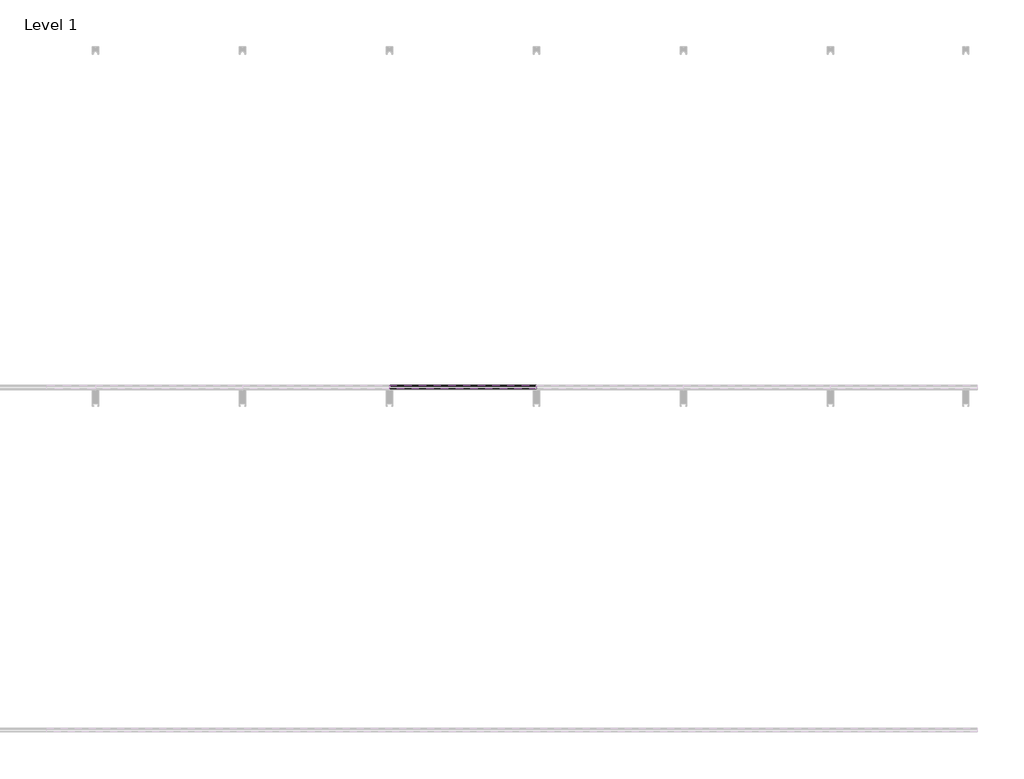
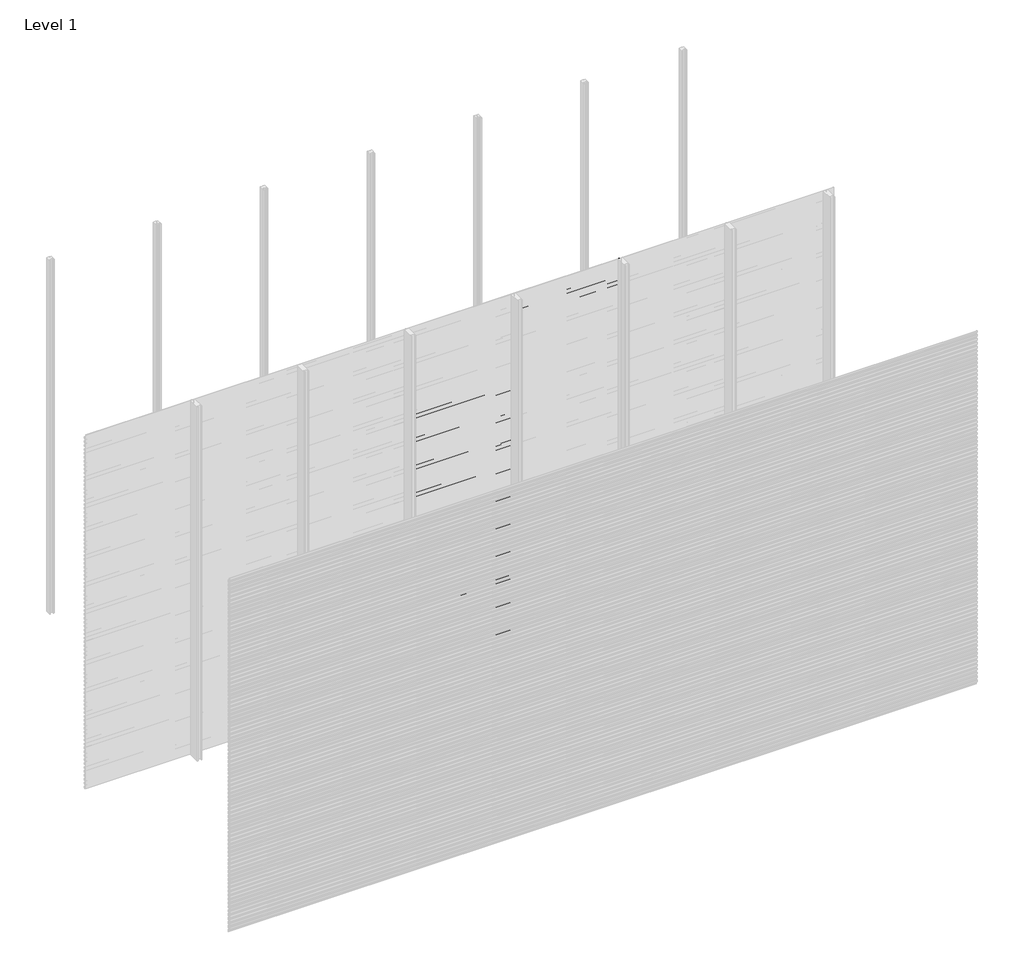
# One storey, part 65 of 96: 77 proxies.
"""IFC4 building model written with IfcOpenShell, lengths in millimetres."""

import ifcopenshell
import ifcopenshell.guid

model = None  # the IFC model being written
_history = None  # IfcOwnerHistory: only IFC2X3 demands one
_inside = {}  # id of a spatial element -> (the spatial element, [elements in it])
_under = {}  # id of a project, library or spatial element -> (it, [spatial elements below it])
_declared = {}  # id of a project -> (the project, [libraries it declares])
_typed = {}  # id of a type object -> (the type object, [elements of that type])
_made_of = {}  # id of a material, layer set ... -> (it, [elements and type objects made of it])


def new_model(schema):
    """Start an empty IFC model of exactly this schema.

    Asked for "IFC4X3", IfcOpenShell would pick the latest addendum, in which some entities
    have other attributes; the version numbers below select the first issue.
    IFC2X3 requires an IfcOwnerHistory on every rooted entity: one is made here for all.
    """
    global model, _history
    if schema == "IFC4X3":
        model = ifcopenshell.file(schema_version=(4, 3, 0, 0))
    else:
        model = ifcopenshell.file(schema=schema)
    _inside.clear()
    _under.clear()
    _declared.clear()
    _typed.clear()
    _made_of.clear()
    _history = None
    if model.schema == "IFC2X3":
        org = make("IfcOrganization", Name="unknown")
        user = make(
            "IfcPersonAndOrganization",
            ThePerson=make("IfcPerson", FamilyName="unknown"),
            TheOrganization=org,
        )
        app = make(
            "IfcApplication",
            ApplicationDeveloper=org,
            Version="unknown",
            ApplicationFullName="unknown",
            ApplicationIdentifier="unknown",
        )
        _history = make(
            "IfcOwnerHistory",
            OwningUser=user,
            OwningApplication=app,
            ChangeAction="ADDED",
            CreationDate=0,
        )
    return model


def make(cls, **values):
    """One entity of the class cls with the attributes given. An attribute that is None is left unset."""
    return model.create_entity(
        cls, **{name: value for name, value in values.items() if value is not None}
    )


def rooted(cls, **values):
    """An entity with a GlobalId (a new one), such as an element, a storey or a relation."""
    return make(cls, GlobalId=ifcopenshell.guid.new(), OwnerHistory=_history, **values)


def si_unit(unit_type, name, prefix=None):
    """IfcSIUnit, for example si_unit("LENGTHUNIT", "METRE", prefix="MILLI")."""
    return make("IfcSIUnit", UnitType=unit_type, Prefix=prefix, Name=name)


def assignment(units):
    """IfcUnitAssignment: the units of a project."""
    return None if units is None else make("IfcUnitAssignment", Units=units)


def point(xyz):
    """IfcCartesianPoint."""
    return None if xyz is None else make("IfcCartesianPoint", Coordinates=xyz)


def direction(xyz):
    """IfcDirection."""
    return None if xyz is None else make("IfcDirection", DirectionRatios=xyz)


def frame(location, z_axis=None, x_axis=None):
    """IfcAxis2Placement3D, a coordinate frame: its origin and axes. An axis left out is left unset."""
    return make(
        "IfcAxis2Placement3D",
        Location=point(location),
        Axis=direction(z_axis),
        RefDirection=direction(x_axis),
    )


def origin():
    """The frame at (0, 0, 0) with its axes left unset."""
    return frame((0.0, 0.0, 0.0))


def place(relative_to, where):
    """IfcLocalPlacement: puts the frame where relative to a parent placement (None: the world)."""
    return make(
        "IfcLocalPlacement", PlacementRelTo=relative_to, RelativePlacement=where
    )


def context(
    kind, dimensions, precision=None, world=None, true_north=None, identifier=None
):
    """IfcGeometricRepresentationContext, for example the 3D "Model" context."""
    return make(
        "IfcGeometricRepresentationContext",
        ContextIdentifier=identifier,
        ContextType=kind,
        CoordinateSpaceDimension=dimensions,
        Precision=precision,
        WorldCoordinateSystem=world,
        TrueNorth=true_north,
    )


def project(units=None, contexts=None):
    """IfcProject with its units and contexts."""
    return rooted(
        "IfcProject",
        Name="project",
        RepresentationContexts=contexts,
        UnitsInContext=assignment(units),
    )


def spatial(cls, under=None, at=None, **own):
    """A site, building, storey or space (cls), placed at a placement, below another one or the project."""
    s = rooted(cls, ObjectPlacement=at, **own)
    if under is not None:
        _under.setdefault(under.id(), (under, []))[1].append(s)
    return s


def polyline(points):
    """IfcPolyline through the points."""
    return make("IfcPolyline", Points=[point(p) for p in points])


def outline(outer, holes=None, kind="AREA"):
    """IfcArbitraryClosedProfileDef: a profile drawn as a closed curve; with holes, ...WithVoids."""
    if holes is None:
        return make("IfcArbitraryClosedProfileDef", ProfileType=kind, OuterCurve=outer)
    return make(
        "IfcArbitraryProfileDefWithVoids",
        ProfileType=kind,
        OuterCurve=outer,
        InnerCurves=holes,
    )


def extrude(swept, where, along, depth):
    """IfcExtrudedAreaSolid: the profile swept, set in the frame where, extruded along a direction by depth."""
    return make(
        "IfcExtrudedAreaSolid",
        SweptArea=swept,
        Position=where,
        ExtrudedDirection=direction(along),
        Depth=depth,
    )


def shape(context_of_items, identifier, shape_type, items):
    """IfcShapeRepresentation: the items that make up one representation, for example the "Body"."""
    return make(
        "IfcShapeRepresentation",
        ContextOfItems=context_of_items,
        RepresentationIdentifier=identifier,
        RepresentationType=shape_type,
        Items=items,
    )


def made_of(thing, what):
    """Note that an element or type object is made of a material, layer set ...; save() writes the relation."""
    if what is not None:
        _made_of.setdefault(what.id(), (what, []))[1].append(thing)
    return thing


def element(
    cls,
    number,
    at=None,
    inside=None,
    cuts=None,
    type_object=None,
    material=None,
    context=None,
    identifier="Body",
    shape_type=None,
    held_by="IfcProductDefinitionShape",
    body=None,
    shapes=None,
    **own,
):
    """One element of the class cls, such as IfcWall. Its Tag is "e" and its number.

    at: its placement. inside: the storey or other place that contains it. cuts: it is an
    opening in that element (IfcRelVoidsElement). A single representation is given by context,
    identifier, shape_type and body (its items); several are given by shapes. held_by: the class
    of the entity that holds the representations. save() writes the other relations.
    """
    e = rooted(cls, Tag="e%d" % number, ObjectPlacement=at, **own)
    if body is not None:
        shapes = [shape(context, identifier, shape_type, body)]
    if shapes is not None:
        e.Representation = make(held_by, Representations=shapes)
    if inside is not None:
        _inside.setdefault(inside.id(), (inside, []))[1].append(e)
    if cuts is not None:
        rooted(
            "IfcRelVoidsElement", RelatingBuildingElement=cuts, RelatedOpeningElement=e
        )
    if type_object is not None:
        _typed.setdefault(type_object.id(), (type_object, []))[1].append(e)
    return made_of(e, material)


def aggregate(whole, parts):
    """IfcRelAggregates: a whole, such as a stair, and the parts it consists of."""
    return rooted("IfcRelAggregates", RelatingObject=whole, RelatedObjects=parts)


def save(model, path):
    """Write the relations noted so far, then the file.

    IfcRelAggregates (storeys below a building ...), IfcRelContainedInSpatialStructure (elements
    in a storey), IfcRelDefinesByType, IfcRelAssociatesMaterial and IfcRelDeclares: one each for
    every whole, place, type object, material and project.
    """
    for whole, parts in _under.values():
        aggregate(whole, parts)
    for where, things in _inside.values():
        rooted(
            "IfcRelContainedInSpatialStructure",
            RelatedElements=things,
            RelatingStructure=where,
        )
    for kind, things in _typed.values():
        rooted("IfcRelDefinesByType", RelatedObjects=things, RelatingType=kind)
    for what, things in _made_of.values():
        rooted("IfcRelAssociatesMaterial", RelatedObjects=things, RelatingMaterial=what)
    for by, libraries in _declared.values():
        rooted("IfcRelDeclares", RelatingContext=by, RelatedDefinitions=libraries)
    model.write(path)


model = new_model("IFC4")

# Units and contexts
model_context = context("Model", 3, world=origin())
ifc_project = project(units=[si_unit("LENGTHUNIT", "METRE", prefix="MILLI")], contexts=[model_context])

# Site, building, storey
site = spatial("IfcSite", under=ifc_project)
building = spatial("IfcBuilding", under=site)
storey = spatial("IfcBuildingStorey", under=building, Name="Level 1", Elevation=0.0)

# Proxies
placement = place(None, origin())
element("IfcBuildingElementProxy", 1, Name="Wall Sweeps", at=placement, inside=storey, context=model_context, shape_type="SweptSolid", body=[
    extrude(outline(polyline([(-17977.6, 2239.1655033), (-17977.6, 2224.8779188), (-17982.4114965, 2222.1), (-17982.4114965, 2223.3701706), (-17978.85, 2225.4264016), (-17978.85, 2238.4437382), (-17998.0, 2249.5000799), (-17998.0, 2264.4), (-17996.75, 2264.4), (-17996.75, 2250.2217609), (-17977.6, 2239.1655033)])), frame((2571.4285714, 0.0, 0.0), z_axis=(1.0, 0.0, 0.0), x_axis=(0.0, 1.0, 0.0)), (0.0, 0.0, 1.0), 857.1428571),
])
element("IfcBuildingElementProxy", 2, Name="Wall Sweeps", at=placement, inside=storey, context=model_context, shape_type="SweptSolid", body=[
    extrude(outline(polyline([(-17977.6, 2205.8655033), (-17977.6, 2191.5779188), (-17982.4114965, 2188.8), (-17982.4114965, 2190.0701706), (-17978.85, 2192.1264016), (-17978.85, 2205.1437382), (-17998.0, 2216.2000799), (-17998.0, 2231.1), (-17996.75, 2231.1), (-17996.75, 2216.9217609), (-17977.6, 2205.8655033)])), frame((2571.4285714, 0.0, 0.0), z_axis=(1.0, 0.0, 0.0), x_axis=(0.0, 1.0, 0.0)), (0.0, 0.0, 1.0), 857.1428571),
])
element("IfcBuildingElementProxy", 3, Name="Wall Sweeps", at=placement, inside=storey, context=model_context, shape_type="SweptSolid", body=[
    extrude(outline(polyline([(-17977.6, 2172.5655033), (-17977.6, 2158.2779188), (-17982.4114965, 2155.5), (-17982.4114965, 2156.7701706), (-17978.85, 2158.8264016), (-17978.85, 2171.8437382), (-17998.0, 2182.9000799), (-17998.0, 2197.8), (-17996.75, 2197.8), (-17996.75, 2183.6217609), (-17977.6, 2172.5655033)])), frame((2571.4285714, 0.0, 0.0), z_axis=(1.0, 0.0, 0.0), x_axis=(0.0, 1.0, 0.0)), (0.0, 0.0, 1.0), 857.1428571),
])
element("IfcBuildingElementProxy", 4, Name="Wall Sweeps", at=placement, inside=storey, context=model_context, shape_type="SweptSolid", body=[
    extrude(outline(polyline([(-17977.6, 2139.2655033), (-17977.6, 2124.9779188), (-17982.4114965, 2122.2), (-17982.4114965, 2123.4701706), (-17978.85, 2125.5264016), (-17978.85, 2138.5437382), (-17998.0, 2149.6000799), (-17998.0, 2164.5), (-17996.75, 2164.5), (-17996.75, 2150.3217609), (-17977.6, 2139.2655033)])), frame((2571.4285714, 0.0, 0.0), z_axis=(1.0, 0.0, 0.0), x_axis=(0.0, 1.0, 0.0)), (0.0, 0.0, 1.0), 857.1428571),
])
element("IfcBuildingElementProxy", 5, Name="Wall Sweeps", at=placement, inside=storey, context=model_context, shape_type="SweptSolid", body=[
    extrude(outline(polyline([(-17977.6, 2105.9655033), (-17977.6, 2091.6779188), (-17982.4114965, 2088.9), (-17982.4114965, 2090.1701706), (-17978.85, 2092.2264016), (-17978.85, 2105.2437382), (-17998.0, 2116.3000799), (-17998.0, 2131.2), (-17996.75, 2131.2), (-17996.75, 2117.0217609), (-17977.6, 2105.9655033)])), frame((2571.4285714, 0.0, 0.0), z_axis=(1.0, 0.0, 0.0), x_axis=(0.0, 1.0, 0.0)), (0.0, 0.0, 1.0), 857.1428571),
])
element("IfcBuildingElementProxy", 6, Name="Wall Sweeps", at=placement, inside=storey, context=model_context, shape_type="SweptSolid", body=[
    extrude(outline(polyline([(-17977.6, 2072.6655033), (-17977.6, 2058.3779188), (-17982.4114965, 2055.6), (-17982.4114965, 2056.8701706), (-17978.85, 2058.9264016), (-17978.85, 2071.9437382), (-17998.0, 2083.0000799), (-17998.0, 2097.9), (-17996.75, 2097.9), (-17996.75, 2083.7217609), (-17977.6, 2072.6655033)])), frame((2571.4285714, 0.0, 0.0), z_axis=(1.0, 0.0, 0.0), x_axis=(0.0, 1.0, 0.0)), (0.0, 0.0, 1.0), 857.1428571),
])
element("IfcBuildingElementProxy", 7, Name="Wall Sweeps", at=placement, inside=storey, context=model_context, shape_type="SweptSolid", body=[
    extrude(outline(polyline([(-17977.6, 2039.3655033), (-17977.6, 2025.0779188), (-17982.4114965, 2022.3), (-17982.4114965, 2023.5701706), (-17978.85, 2025.6264016), (-17978.85, 2038.6437382), (-17998.0, 2049.7000799), (-17998.0, 2064.6), (-17996.75, 2064.6), (-17996.75, 2050.4217609), (-17977.6, 2039.3655033)])), frame((2571.4285714, 0.0, 0.0), z_axis=(1.0, 0.0, 0.0), x_axis=(0.0, 1.0, 0.0)), (0.0, 0.0, 1.0), 857.1428571),
])
element("IfcBuildingElementProxy", 8, Name="Wall Sweeps", at=placement, inside=storey, context=model_context, shape_type="SweptSolid", body=[
    extrude(outline(polyline([(-17977.6, 2006.0655033), (-17977.6, 1991.7779188), (-17982.4114965, 1989.0), (-17982.4114965, 1990.2701706), (-17978.85, 1992.3264016), (-17978.85, 2005.3437382), (-17998.0, 2016.4000799), (-17998.0, 2031.3), (-17996.75, 2031.3), (-17996.75, 2017.1217609), (-17977.6, 2006.0655033)])), frame((2571.4285714, 0.0, 0.0), z_axis=(1.0, 0.0, 0.0), x_axis=(0.0, 1.0, 0.0)), (0.0, 0.0, 1.0), 857.1428571),
])
element("IfcBuildingElementProxy", 9, Name="Wall Sweeps", at=placement, inside=storey, context=model_context, shape_type="SweptSolid", body=[
    extrude(outline(polyline([(-17977.6, 1972.7655033), (-17977.6, 1958.4779188), (-17982.4114965, 1955.7), (-17982.4114965, 1956.9701706), (-17978.85, 1959.0264016), (-17978.85, 1972.0437382), (-17998.0, 1983.1000799), (-17998.0, 1998.0), (-17996.75, 1998.0), (-17996.75, 1983.8217609), (-17977.6, 1972.7655033)])), frame((2571.4285714, 0.0, 0.0), z_axis=(1.0, 0.0, 0.0), x_axis=(0.0, 1.0, 0.0)), (0.0, 0.0, 1.0), 857.1428571),
])
element("IfcBuildingElementProxy", 10, Name="Wall Sweeps", at=placement, inside=storey, context=model_context, shape_type="SweptSolid", body=[
    extrude(outline(polyline([(-17977.6, 1939.4655033), (-17977.6, 1925.1779188), (-17982.4114965, 1922.4), (-17982.4114965, 1923.6701706), (-17978.85, 1925.7264016), (-17978.85, 1938.7437382), (-17998.0, 1949.8000799), (-17998.0, 1964.7), (-17996.75, 1964.7), (-17996.75, 1950.5217609), (-17977.6, 1939.4655033)])), frame((2571.4285714, 0.0, 0.0), z_axis=(1.0, 0.0, 0.0), x_axis=(0.0, 1.0, 0.0)), (0.0, 0.0, 1.0), 857.1428571),
])
element("IfcBuildingElementProxy", 11, Name="Wall Sweeps", at=placement, inside=storey, context=model_context, shape_type="SweptSolid", body=[
    extrude(outline(polyline([(-17977.6, 1906.1655033), (-17977.6, 1891.8779188), (-17982.4114965, 1889.1), (-17982.4114965, 1890.3701706), (-17978.85, 1892.4264016), (-17978.85, 1905.4437382), (-17998.0, 1916.5000799), (-17998.0, 1931.4), (-17996.75, 1931.4), (-17996.75, 1917.2217609), (-17977.6, 1906.1655033)])), frame((2571.4285714, 0.0, 0.0), z_axis=(1.0, 0.0, 0.0), x_axis=(0.0, 1.0, 0.0)), (0.0, 0.0, 1.0), 857.1428571),
])
element("IfcBuildingElementProxy", 12, Name="Wall Sweeps", at=placement, inside=storey, context=model_context, shape_type="SweptSolid", body=[
    extrude(outline(polyline([(-17977.6, 1872.8655033), (-17977.6, 1858.5779188), (-17982.4114965, 1855.8), (-17982.4114965, 1857.0701706), (-17978.85, 1859.1264016), (-17978.85, 1872.1437382), (-17998.0, 1883.2000799), (-17998.0, 1898.1), (-17996.75, 1898.1), (-17996.75, 1883.9217609), (-17977.6, 1872.8655033)])), frame((2571.4285714, 0.0, 0.0), z_axis=(1.0, 0.0, 0.0), x_axis=(0.0, 1.0, 0.0)), (0.0, 0.0, 1.0), 857.1428571),
])
element("IfcBuildingElementProxy", 13, Name="Wall Sweeps", at=placement, inside=storey, context=model_context, shape_type="SweptSolid", body=[
    extrude(outline(polyline([(-17977.6, 1839.5655033), (-17977.6, 1825.2779188), (-17982.4114965, 1822.5), (-17982.4114965, 1823.7701706), (-17978.85, 1825.8264016), (-17978.85, 1838.8437382), (-17998.0, 1849.9000799), (-17998.0, 1864.8), (-17996.75, 1864.8), (-17996.75, 1850.6217609), (-17977.6, 1839.5655033)])), frame((2571.4285714, 0.0, 0.0), z_axis=(1.0, 0.0, 0.0), x_axis=(0.0, 1.0, 0.0)), (0.0, 0.0, 1.0), 857.1428571),
])
element("IfcBuildingElementProxy", 14, Name="Wall Sweeps", at=placement, inside=storey, context=model_context, shape_type="SweptSolid", body=[
    extrude(outline(polyline([(-17977.6, 1806.2655033), (-17977.6, 1791.9779188), (-17982.4114965, 1789.2), (-17982.4114965, 1790.4701706), (-17978.85, 1792.5264016), (-17978.85, 1805.5437382), (-17998.0, 1816.6000799), (-17998.0, 1831.5), (-17996.75, 1831.5), (-17996.75, 1817.3217609), (-17977.6, 1806.2655033)])), frame((2571.4285714, 0.0, 0.0), z_axis=(1.0, 0.0, 0.0), x_axis=(0.0, 1.0, 0.0)), (0.0, 0.0, 1.0), 857.1428571),
])
element("IfcBuildingElementProxy", 15, Name="Wall Sweeps", at=placement, inside=storey, context=model_context, shape_type="SweptSolid", body=[
    extrude(outline(polyline([(-17977.6, 1772.9655033), (-17977.6, 1758.6779188), (-17982.4114965, 1755.9), (-17982.4114965, 1757.1701706), (-17978.85, 1759.2264016), (-17978.85, 1772.2437382), (-17998.0, 1783.3000799), (-17998.0, 1798.2), (-17996.75, 1798.2), (-17996.75, 1784.0217609), (-17977.6, 1772.9655033)])), frame((2571.4285714, 0.0, 0.0), z_axis=(1.0, 0.0, 0.0), x_axis=(0.0, 1.0, 0.0)), (0.0, 0.0, 1.0), 857.1428571),
])
element("IfcBuildingElementProxy", 16, Name="Wall Sweeps", at=placement, inside=storey, context=model_context, shape_type="SweptSolid", body=[
    extrude(outline(polyline([(-17977.6, 1739.6655033), (-17977.6, 1725.3779188), (-17982.4114965, 1722.6), (-17982.4114965, 1723.8701706), (-17978.85, 1725.9264016), (-17978.85, 1738.9437382), (-17998.0, 1750.0000799), (-17998.0, 1764.9), (-17996.75, 1764.9), (-17996.75, 1750.7217609), (-17977.6, 1739.6655033)])), frame((2571.4285714, 0.0, 0.0), z_axis=(1.0, 0.0, 0.0), x_axis=(0.0, 1.0, 0.0)), (0.0, 0.0, 1.0), 857.1428571),
])
element("IfcBuildingElementProxy", 17, Name="Wall Sweeps", at=placement, inside=storey, context=model_context, shape_type="SweptSolid", body=[
    extrude(outline(polyline([(-17977.6, 1706.3655033), (-17977.6, 1692.0779188), (-17982.4114965, 1689.3), (-17982.4114965, 1690.5701706), (-17978.85, 1692.6264016), (-17978.85, 1705.6437382), (-17998.0, 1716.7000799), (-17998.0, 1731.6), (-17996.75, 1731.6), (-17996.75, 1717.4217609), (-17977.6, 1706.3655033)])), frame((2571.4285714, 0.0, 0.0), z_axis=(1.0, 0.0, 0.0), x_axis=(0.0, 1.0, 0.0)), (0.0, 0.0, 1.0), 857.1428571),
])
element("IfcBuildingElementProxy", 18, Name="Wall Sweeps", at=placement, inside=storey, context=model_context, shape_type="SweptSolid", body=[
    extrude(outline(polyline([(-17977.6, 1673.0655033), (-17977.6, 1658.7779188), (-17982.4114965, 1656.0), (-17982.4114965, 1657.2701706), (-17978.85, 1659.3264016), (-17978.85, 1672.3437382), (-17998.0, 1683.4000799), (-17998.0, 1698.3), (-17996.75, 1698.3), (-17996.75, 1684.1217609), (-17977.6, 1673.0655033)])), frame((2571.4285714, 0.0, 0.0), z_axis=(1.0, 0.0, 0.0), x_axis=(0.0, 1.0, 0.0)), (0.0, 0.0, 1.0), 857.1428571),
])
element("IfcBuildingElementProxy", 19, Name="Wall Sweeps", at=placement, inside=storey, context=model_context, shape_type="SweptSolid", body=[
    extrude(outline(polyline([(-17977.6, 1639.7655033), (-17977.6, 1625.4779188), (-17982.4114965, 1622.7), (-17982.4114965, 1623.9701706), (-17978.85, 1626.0264016), (-17978.85, 1639.0437382), (-17998.0, 1650.1000799), (-17998.0, 1665.0), (-17996.75, 1665.0), (-17996.75, 1650.8217609), (-17977.6, 1639.7655033)])), frame((2571.4285714, 0.0, 0.0), z_axis=(1.0, 0.0, 0.0), x_axis=(0.0, 1.0, 0.0)), (0.0, 0.0, 1.0), 857.1428571),
])
element("IfcBuildingElementProxy", 20, Name="Wall Sweeps", at=placement, inside=storey, context=model_context, shape_type="SweptSolid", body=[
    extrude(outline(polyline([(-17977.6, 1606.4655033), (-17977.6, 1592.1779188), (-17982.4114965, 1589.4), (-17982.4114965, 1590.6701706), (-17978.85, 1592.7264016), (-17978.85, 1605.7437382), (-17998.0, 1616.8000799), (-17998.0, 1631.7), (-17996.75, 1631.7), (-17996.75, 1617.5217609), (-17977.6, 1606.4655033)])), frame((2571.4285714, 0.0, 0.0), z_axis=(1.0, 0.0, 0.0), x_axis=(0.0, 1.0, 0.0)), (0.0, 0.0, 1.0), 857.1428571),
])
element("IfcBuildingElementProxy", 21, Name="Wall Sweeps", at=placement, inside=storey, context=model_context, shape_type="SweptSolid", body=[
    extrude(outline(polyline([(-17977.6, 1573.1655033), (-17977.6, 1558.8779188), (-17982.4114965, 1556.1), (-17982.4114965, 1557.3701706), (-17978.85, 1559.4264016), (-17978.85, 1572.4437382), (-17998.0, 1583.5000799), (-17998.0, 1598.4), (-17996.75, 1598.4), (-17996.75, 1584.2217609), (-17977.6, 1573.1655033)])), frame((2571.4285714, 0.0, 0.0), z_axis=(1.0, 0.0, 0.0), x_axis=(0.0, 1.0, 0.0)), (0.0, 0.0, 1.0), 857.1428571),
])
element("IfcBuildingElementProxy", 22, Name="Wall Sweeps", at=placement, inside=storey, context=model_context, shape_type="SweptSolid", body=[
    extrude(outline(polyline([(-17977.6, 1539.8655033), (-17977.6, 1525.5779188), (-17982.4114965, 1522.8), (-17982.4114965, 1524.0701706), (-17978.85, 1526.1264016), (-17978.85, 1539.1437382), (-17998.0, 1550.2000799), (-17998.0, 1565.1), (-17996.75, 1565.1), (-17996.75, 1550.9217609), (-17977.6, 1539.8655033)])), frame((2571.4285714, 0.0, 0.0), z_axis=(1.0, 0.0, 0.0), x_axis=(0.0, 1.0, 0.0)), (0.0, 0.0, 1.0), 857.1428571),
])
element("IfcBuildingElementProxy", 23, Name="Wall Sweeps", at=placement, inside=storey, context=model_context, shape_type="SweptSolid", body=[
    extrude(outline(polyline([(-17977.6, 1506.5655033), (-17977.6, 1492.2779188), (-17982.4114965, 1489.5), (-17982.4114965, 1490.7701706), (-17978.85, 1492.8264016), (-17978.85, 1505.8437382), (-17998.0, 1516.9000799), (-17998.0, 1531.8), (-17996.75, 1531.8), (-17996.75, 1517.6217609), (-17977.6, 1506.5655033)])), frame((2571.4285714, 0.0, 0.0), z_axis=(1.0, 0.0, 0.0), x_axis=(0.0, 1.0, 0.0)), (0.0, 0.0, 1.0), 857.1428571),
])
element("IfcBuildingElementProxy", 24, Name="Wall Sweeps", at=placement, inside=storey, context=model_context, shape_type="SweptSolid", body=[
    extrude(outline(polyline([(-17977.6, 1473.2655033), (-17977.6, 1458.9779188), (-17982.4114965, 1456.2), (-17982.4114965, 1457.4701706), (-17978.85, 1459.5264016), (-17978.85, 1472.5437382), (-17998.0, 1483.6000799), (-17998.0, 1498.5), (-17996.75, 1498.5), (-17996.75, 1484.3217609), (-17977.6, 1473.2655033)])), frame((2571.4285714, 0.0, 0.0), z_axis=(1.0, 0.0, 0.0), x_axis=(0.0, 1.0, 0.0)), (0.0, 0.0, 1.0), 857.1428571),
])
element("IfcBuildingElementProxy", 25, Name="Wall Sweeps", at=placement, inside=storey, context=model_context, shape_type="SweptSolid", body=[
    extrude(outline(polyline([(-17977.6, 1439.9655033), (-17977.6, 1425.6779188), (-17982.4114965, 1422.9), (-17982.4114965, 1424.1701706), (-17978.85, 1426.2264016), (-17978.85, 1439.2437382), (-17998.0, 1450.3000799), (-17998.0, 1465.2), (-17996.75, 1465.2), (-17996.75, 1451.0217609), (-17977.6, 1439.9655033)])), frame((2571.4285714, 0.0, 0.0), z_axis=(1.0, 0.0, 0.0), x_axis=(0.0, 1.0, 0.0)), (0.0, 0.0, 1.0), 857.1428571),
])
element("IfcBuildingElementProxy", 26, Name="Wall Sweeps", at=placement, inside=storey, context=model_context, shape_type="SweptSolid", body=[
    extrude(outline(polyline([(-17977.6, 1406.6655033), (-17977.6, 1392.3779188), (-17982.4114965, 1389.6), (-17982.4114965, 1390.8701706), (-17978.85, 1392.9264016), (-17978.85, 1405.9437382), (-17998.0, 1417.0000799), (-17998.0, 1431.9), (-17996.75, 1431.9), (-17996.75, 1417.7217609), (-17977.6, 1406.6655033)])), frame((2571.4285714, 0.0, 0.0), z_axis=(1.0, 0.0, 0.0), x_axis=(0.0, 1.0, 0.0)), (0.0, 0.0, 1.0), 857.1428571),
])
element("IfcBuildingElementProxy", 27, Name="Wall Sweeps", at=placement, inside=storey, context=model_context, shape_type="SweptSolid", body=[
    extrude(outline(polyline([(-17977.6, 1373.3655033), (-17977.6, 1359.0779188), (-17982.4114965, 1356.3), (-17982.4114965, 1357.5701706), (-17978.85, 1359.6264016), (-17978.85, 1372.6437382), (-17998.0, 1383.7000799), (-17998.0, 1398.6), (-17996.75, 1398.6), (-17996.75, 1384.4217609), (-17977.6, 1373.3655033)])), frame((2571.4285714, 0.0, 0.0), z_axis=(1.0, 0.0, 0.0), x_axis=(0.0, 1.0, 0.0)), (0.0, 0.0, 1.0), 857.1428571),
])
element("IfcBuildingElementProxy", 28, Name="Wall Sweeps", at=placement, inside=storey, context=model_context, shape_type="SweptSolid", body=[
    extrude(outline(polyline([(-17977.6, 1340.0655033), (-17977.6, 1325.7779188), (-17982.4114965, 1323.0), (-17982.4114965, 1324.2701706), (-17978.85, 1326.3264016), (-17978.85, 1339.3437382), (-17998.0, 1350.4000799), (-17998.0, 1365.3), (-17996.75, 1365.3), (-17996.75, 1351.1217609), (-17977.6, 1340.0655033)])), frame((2571.4285714, 0.0, 0.0), z_axis=(1.0, 0.0, 0.0), x_axis=(0.0, 1.0, 0.0)), (0.0, 0.0, 1.0), 857.1428571),
])
element("IfcBuildingElementProxy", 29, Name="Wall Sweeps", at=placement, inside=storey, context=model_context, shape_type="SweptSolid", body=[
    extrude(outline(polyline([(-17977.6, 1306.7655033), (-17977.6, 1292.4779188), (-17982.4114965, 1289.7), (-17982.4114965, 1290.9701706), (-17978.85, 1293.0264016), (-17978.85, 1306.0437382), (-17998.0, 1317.1000799), (-17998.0, 1332.0), (-17996.75, 1332.0), (-17996.75, 1317.8217609), (-17977.6, 1306.7655033)])), frame((2571.4285714, 0.0, 0.0), z_axis=(1.0, 0.0, 0.0), x_axis=(0.0, 1.0, 0.0)), (0.0, 0.0, 1.0), 857.1428571),
])
element("IfcBuildingElementProxy", 30, Name="Wall Sweeps", at=placement, inside=storey, context=model_context, shape_type="SweptSolid", body=[
    extrude(outline(polyline([(-17977.6, 1273.4655033), (-17977.6, 1259.1779188), (-17982.4114965, 1256.4), (-17982.4114965, 1257.6701706), (-17978.85, 1259.7264016), (-17978.85, 1272.7437382), (-17998.0, 1283.8000799), (-17998.0, 1298.7), (-17996.75, 1298.7), (-17996.75, 1284.5217609), (-17977.6, 1273.4655033)])), frame((2571.4285714, 0.0, 0.0), z_axis=(1.0, 0.0, 0.0), x_axis=(0.0, 1.0, 0.0)), (0.0, 0.0, 1.0), 857.1428571),
])
element("IfcBuildingElementProxy", 31, Name="Wall Sweeps", at=placement, inside=storey, context=model_context, shape_type="SweptSolid", body=[
    extrude(outline(polyline([(-17977.6, 1240.1655033), (-17977.6, 1225.8779188), (-17982.4114965, 1223.1), (-17982.4114965, 1224.3701706), (-17978.85, 1226.4264016), (-17978.85, 1239.4437382), (-17998.0, 1250.5000799), (-17998.0, 1265.4), (-17996.75, 1265.4), (-17996.75, 1251.2217609), (-17977.6, 1240.1655033)])), frame((2571.4285714, 0.0, 0.0), z_axis=(1.0, 0.0, 0.0), x_axis=(0.0, 1.0, 0.0)), (0.0, 0.0, 1.0), 857.1428571),
])
element("IfcBuildingElementProxy", 32, Name="Wall Sweeps", at=placement, inside=storey, context=model_context, shape_type="SweptSolid", body=[
    extrude(outline(polyline([(-17977.6, 1206.8655033), (-17977.6, 1192.5779188), (-17982.4114965, 1189.8), (-17982.4114965, 1191.0701706), (-17978.85, 1193.1264016), (-17978.85, 1206.1437382), (-17998.0, 1217.2000799), (-17998.0, 1232.1), (-17996.75, 1232.1), (-17996.75, 1217.9217609), (-17977.6, 1206.8655033)])), frame((2571.4285714, 0.0, 0.0), z_axis=(1.0, 0.0, 0.0), x_axis=(0.0, 1.0, 0.0)), (0.0, 0.0, 1.0), 857.1428571),
])
element("IfcBuildingElementProxy", 33, Name="Wall Sweeps", at=placement, inside=storey, context=model_context, shape_type="SweptSolid", body=[
    extrude(outline(polyline([(-17977.6, 1173.5655033), (-17977.6, 1159.2779188), (-17982.4114965, 1156.5), (-17982.4114965, 1157.7701706), (-17978.85, 1159.8264016), (-17978.85, 1172.8437382), (-17998.0, 1183.9000799), (-17998.0, 1198.8), (-17996.75, 1198.8), (-17996.75, 1184.6217609), (-17977.6, 1173.5655033)])), frame((2571.4285714, 0.0, 0.0), z_axis=(1.0, 0.0, 0.0), x_axis=(0.0, 1.0, 0.0)), (0.0, 0.0, 1.0), 857.1428571),
])
element("IfcBuildingElementProxy", 34, Name="Wall Sweeps", at=placement, inside=storey, context=model_context, shape_type="SweptSolid", body=[
    extrude(outline(polyline([(-17977.6, 1140.2655033), (-17977.6, 1125.9779188), (-17982.4114965, 1123.2), (-17982.4114965, 1124.4701706), (-17978.85, 1126.5264016), (-17978.85, 1139.5437382), (-17998.0, 1150.6000799), (-17998.0, 1165.5), (-17996.75, 1165.5), (-17996.75, 1151.3217609), (-17977.6, 1140.2655033)])), frame((2571.4285714, 0.0, 0.0), z_axis=(1.0, 0.0, 0.0), x_axis=(0.0, 1.0, 0.0)), (0.0, 0.0, 1.0), 857.1428571),
])
element("IfcBuildingElementProxy", 35, Name="Wall Sweeps", at=placement, inside=storey, context=model_context, shape_type="SweptSolid", body=[
    extrude(outline(polyline([(-17977.6, 1106.9655033), (-17977.6, 1092.6779188), (-17982.4114965, 1089.9), (-17982.4114965, 1091.1701706), (-17978.85, 1093.2264016), (-17978.85, 1106.2437382), (-17998.0, 1117.3000799), (-17998.0, 1132.2), (-17996.75, 1132.2), (-17996.75, 1118.0217609), (-17977.6, 1106.9655033)])), frame((2571.4285714, 0.0, 0.0), z_axis=(1.0, 0.0, 0.0), x_axis=(0.0, 1.0, 0.0)), (0.0, 0.0, 1.0), 857.1428571),
])
element("IfcBuildingElementProxy", 36, Name="Wall Sweeps", at=placement, inside=storey, context=model_context, shape_type="SweptSolid", body=[
    extrude(outline(polyline([(-17977.6, 1073.6655033), (-17977.6, 1059.3779188), (-17982.4114965, 1056.6), (-17982.4114965, 1057.8701706), (-17978.85, 1059.9264016), (-17978.85, 1072.9437382), (-17998.0, 1084.0000799), (-17998.0, 1098.9), (-17996.75, 1098.9), (-17996.75, 1084.7217609), (-17977.6, 1073.6655033)])), frame((2571.4285714, 0.0, 0.0), z_axis=(1.0, 0.0, 0.0), x_axis=(0.0, 1.0, 0.0)), (0.0, 0.0, 1.0), 857.1428571),
])
element("IfcBuildingElementProxy", 37, Name="Wall Sweeps", at=placement, inside=storey, context=model_context, shape_type="SweptSolid", body=[
    extrude(outline(polyline([(-17977.6, 1040.3655033), (-17977.6, 1026.0779188), (-17982.4114965, 1023.3), (-17982.4114965, 1024.5701706), (-17978.85, 1026.6264016), (-17978.85, 1039.6437382), (-17998.0, 1050.7000799), (-17998.0, 1065.6), (-17996.75, 1065.6), (-17996.75, 1051.4217609), (-17977.6, 1040.3655033)])), frame((2571.4285714, 0.0, 0.0), z_axis=(1.0, 0.0, 0.0), x_axis=(0.0, 1.0, 0.0)), (0.0, 0.0, 1.0), 857.1428571),
])
element("IfcBuildingElementProxy", 38, Name="Wall Sweeps", at=placement, inside=storey, context=model_context, shape_type="SweptSolid", body=[
    extrude(outline(polyline([(-17977.6, 1007.0655033), (-17977.6, 992.7779188), (-17982.4114965, 990.0), (-17982.4114965, 991.2701706), (-17978.85, 993.3264016), (-17978.85, 1006.3437382), (-17998.0, 1017.4000799), (-17998.0, 1032.3), (-17996.75, 1032.3), (-17996.75, 1018.1217609), (-17977.6, 1007.0655033)])), frame((2571.4285714, 0.0, 0.0), z_axis=(1.0, 0.0, 0.0), x_axis=(0.0, 1.0, 0.0)), (0.0, 0.0, 1.0), 857.1428571),
])
element("IfcBuildingElementProxy", 39, Name="Wall Sweeps", at=placement, inside=storey, context=model_context, shape_type="SweptSolid", body=[
    extrude(outline(polyline([(-17977.6, 973.7655033), (-17977.6, 959.4779188), (-17982.4114965, 956.7), (-17982.4114965, 957.9701706), (-17978.85, 960.0264016), (-17978.85, 973.0437382), (-17998.0, 984.1000799), (-17998.0, 999.0), (-17996.75, 999.0), (-17996.75, 984.8217609), (-17977.6, 973.7655033)])), frame((2571.4285714, 0.0, 0.0), z_axis=(1.0, 0.0, 0.0), x_axis=(0.0, 1.0, 0.0)), (0.0, 0.0, 1.0), 857.1428571),
])
element("IfcBuildingElementProxy", 40, Name="Wall Sweeps", at=placement, inside=storey, context=model_context, shape_type="SweptSolid", body=[
    extrude(outline(polyline([(-17977.6, 940.4655033), (-17977.6, 926.1779188), (-17982.4114965, 923.4), (-17982.4114965, 924.6701706), (-17978.85, 926.7264016), (-17978.85, 939.7437382), (-17998.0, 950.8000799), (-17998.0, 965.7), (-17996.75, 965.7), (-17996.75, 951.5217609), (-17977.6, 940.4655033)])), frame((2571.4285714, 0.0, 0.0), z_axis=(1.0, 0.0, 0.0), x_axis=(0.0, 1.0, 0.0)), (0.0, 0.0, 1.0), 857.1428571),
])
element("IfcBuildingElementProxy", 41, Name="Wall Sweeps", at=placement, inside=storey, context=model_context, shape_type="SweptSolid", body=[
    extrude(outline(polyline([(-17977.6, 907.1655033), (-17977.6, 892.8779188), (-17982.4114965, 890.1), (-17982.4114965, 891.3701706), (-17978.85, 893.4264016), (-17978.85, 906.4437382), (-17998.0, 917.5000799), (-17998.0, 932.4), (-17996.75, 932.4), (-17996.75, 918.2217609), (-17977.6, 907.1655033)])), frame((2571.4285714, 0.0, 0.0), z_axis=(1.0, 0.0, 0.0), x_axis=(0.0, 1.0, 0.0)), (0.0, 0.0, 1.0), 857.1428571),
])
element("IfcBuildingElementProxy", 42, Name="Wall Sweeps", at=placement, inside=storey, context=model_context, shape_type="SweptSolid", body=[
    extrude(outline(polyline([(-17977.6, 873.8655033), (-17977.6, 859.5779188), (-17982.4114965, 856.8), (-17982.4114965, 858.0701706), (-17978.85, 860.1264016), (-17978.85, 873.1437382), (-17998.0, 884.2000799), (-17998.0, 899.1), (-17996.75, 899.1), (-17996.75, 884.9217609), (-17977.6, 873.8655033)])), frame((2571.4285714, 0.0, 0.0), z_axis=(1.0, 0.0, 0.0), x_axis=(0.0, 1.0, 0.0)), (0.0, 0.0, 1.0), 857.1428571),
])
element("IfcBuildingElementProxy", 43, Name="Wall Sweeps", at=placement, inside=storey, context=model_context, shape_type="SweptSolid", body=[
    extrude(outline(polyline([(-17977.6, 840.5655033), (-17977.6, 826.2779188), (-17982.4114965, 823.5), (-17982.4114965, 824.7701706), (-17978.85, 826.8264016), (-17978.85, 839.8437382), (-17998.0, 850.9000799), (-17998.0, 865.8), (-17996.75, 865.8), (-17996.75, 851.6217609), (-17977.6, 840.5655033)])), frame((2571.4285714, 0.0, 0.0), z_axis=(1.0, 0.0, 0.0), x_axis=(0.0, 1.0, 0.0)), (0.0, 0.0, 1.0), 857.1428571),
])
element("IfcBuildingElementProxy", 44, Name="Wall Sweeps", at=placement, inside=storey, context=model_context, shape_type="SweptSolid", body=[
    extrude(outline(polyline([(-17977.6, 807.2655033), (-17977.6, 792.9779188), (-17982.4114965, 790.2), (-17982.4114965, 791.4701706), (-17978.85, 793.5264016), (-17978.85, 806.5437382), (-17998.0, 817.6000799), (-17998.0, 832.5), (-17996.75, 832.5), (-17996.75, 818.3217609), (-17977.6, 807.2655033)])), frame((2571.4285714, 0.0, 0.0), z_axis=(1.0, 0.0, 0.0), x_axis=(0.0, 1.0, 0.0)), (0.0, 0.0, 1.0), 857.1428571),
])
element("IfcBuildingElementProxy", 45, Name="Wall Sweeps", at=placement, inside=storey, context=model_context, shape_type="SweptSolid", body=[
    extrude(outline(polyline([(-17977.6, 773.9655033), (-17977.6, 759.6779188), (-17982.4114965, 756.9), (-17982.4114965, 758.1701706), (-17978.85, 760.2264016), (-17978.85, 773.2437382), (-17998.0, 784.3000799), (-17998.0, 799.2), (-17996.75, 799.2), (-17996.75, 785.0217609), (-17977.6, 773.9655033)])), frame((2571.4285714, 0.0, 0.0), z_axis=(1.0, 0.0, 0.0), x_axis=(0.0, 1.0, 0.0)), (0.0, 0.0, 1.0), 857.1428571),
])
element("IfcBuildingElementProxy", 46, Name="Wall Sweeps", at=placement, inside=storey, context=model_context, shape_type="SweptSolid", body=[
    extrude(outline(polyline([(-17977.6, 740.6655033), (-17977.6, 726.3779188), (-17982.4114965, 723.6), (-17982.4114965, 724.8701706), (-17978.85, 726.9264016), (-17978.85, 739.9437382), (-17998.0, 751.0000799), (-17998.0, 765.9), (-17996.75, 765.9), (-17996.75, 751.7217609), (-17977.6, 740.6655033)])), frame((2571.4285714, 0.0, 0.0), z_axis=(1.0, 0.0, 0.0), x_axis=(0.0, 1.0, 0.0)), (0.0, 0.0, 1.0), 857.1428571),
])
element("IfcBuildingElementProxy", 47, Name="Wall Sweeps", at=placement, inside=storey, context=model_context, shape_type="SweptSolid", body=[
    extrude(outline(polyline([(-17977.6, 707.3655033), (-17977.6, 693.0779188), (-17982.4114965, 690.3), (-17982.4114965, 691.5701706), (-17978.85, 693.6264016), (-17978.85, 706.6437382), (-17998.0, 717.7000799), (-17998.0, 732.6), (-17996.75, 732.6), (-17996.75, 718.4217609), (-17977.6, 707.3655033)])), frame((2571.4285714, 0.0, 0.0), z_axis=(1.0, 0.0, 0.0), x_axis=(0.0, 1.0, 0.0)), (0.0, 0.0, 1.0), 857.1428571),
])
element("IfcBuildingElementProxy", 48, Name="Wall Sweeps", at=placement, inside=storey, context=model_context, shape_type="SweptSolid", body=[
    extrude(outline(polyline([(-17977.6, 674.0655033), (-17977.6, 659.7779188), (-17982.4114965, 657.0), (-17982.4114965, 658.2701706), (-17978.85, 660.3264016), (-17978.85, 673.3437382), (-17998.0, 684.4000799), (-17998.0, 699.3), (-17996.75, 699.3), (-17996.75, 685.1217609), (-17977.6, 674.0655033)])), frame((2571.4285714, 0.0, 0.0), z_axis=(1.0, 0.0, 0.0), x_axis=(0.0, 1.0, 0.0)), (0.0, 0.0, 1.0), 857.1428571),
])
element("IfcBuildingElementProxy", 49, Name="Wall Sweeps", at=placement, inside=storey, context=model_context, shape_type="SweptSolid", body=[
    extrude(outline(polyline([(-17977.6, 640.7655033), (-17977.6, 626.4779188), (-17982.4114965, 623.7), (-17982.4114965, 624.9701706), (-17978.85, 627.0264016), (-17978.85, 640.0437382), (-17998.0, 651.1000799), (-17998.0, 666.0), (-17996.75, 666.0), (-17996.75, 651.8217609), (-17977.6, 640.7655033)])), frame((2571.4285714, 0.0, 0.0), z_axis=(1.0, 0.0, 0.0), x_axis=(0.0, 1.0, 0.0)), (0.0, 0.0, 1.0), 857.1428571),
])
element("IfcBuildingElementProxy", 50, Name="Wall Sweeps", at=placement, inside=storey, context=model_context, shape_type="SweptSolid", body=[
    extrude(outline(polyline([(-17977.6, 607.4655033), (-17977.6, 593.1779188), (-17982.4114965, 590.4), (-17982.4114965, 591.6701706), (-17978.85, 593.7264016), (-17978.85, 606.7437382), (-17998.0, 617.8000799), (-17998.0, 632.7), (-17996.75, 632.7), (-17996.75, 618.5217609), (-17977.6, 607.4655033)])), frame((2571.4285714, 0.0, 0.0), z_axis=(1.0, 0.0, 0.0), x_axis=(0.0, 1.0, 0.0)), (0.0, 0.0, 1.0), 857.1428571),
])
element("IfcBuildingElementProxy", 51, Name="Wall Sweeps", at=placement, inside=storey, context=model_context, shape_type="SweptSolid", body=[
    extrude(outline(polyline([(-17977.6, 574.1655033), (-17977.6, 559.8779188), (-17982.4114965, 557.1), (-17982.4114965, 558.3701706), (-17978.85, 560.4264016), (-17978.85, 573.4437382), (-17998.0, 584.5000799), (-17998.0, 599.4), (-17996.75, 599.4), (-17996.75, 585.2217609), (-17977.6, 574.1655033)])), frame((2571.4285714, 0.0, 0.0), z_axis=(1.0, 0.0, 0.0), x_axis=(0.0, 1.0, 0.0)), (0.0, 0.0, 1.0), 857.1428571),
])
element("IfcBuildingElementProxy", 52, Name="Wall Sweeps", at=placement, inside=storey, context=model_context, shape_type="SweptSolid", body=[
    extrude(outline(polyline([(-17977.6, 540.8655033), (-17977.6, 526.5779188), (-17982.4114965, 523.8), (-17982.4114965, 525.0701706), (-17978.85, 527.1264016), (-17978.85, 540.1437382), (-17998.0, 551.2000799), (-17998.0, 566.1), (-17996.75, 566.1), (-17996.75, 551.9217609), (-17977.6, 540.8655033)])), frame((2571.4285714, 0.0, 0.0), z_axis=(1.0, 0.0, 0.0), x_axis=(0.0, 1.0, 0.0)), (0.0, 0.0, 1.0), 857.1428571),
])
element("IfcBuildingElementProxy", 53, Name="Wall Sweeps", at=placement, inside=storey, context=model_context, shape_type="SweptSolid", body=[
    extrude(outline(polyline([(-17977.6, 507.5655033), (-17977.6, 493.2779188), (-17982.4114965, 490.5), (-17982.4114965, 491.7701706), (-17978.85, 493.8264016), (-17978.85, 506.8437382), (-17998.0, 517.9000799), (-17998.0, 532.8), (-17996.75, 532.8), (-17996.75, 518.6217609), (-17977.6, 507.5655033)])), frame((2571.4285714, 0.0, 0.0), z_axis=(1.0, 0.0, 0.0), x_axis=(0.0, 1.0, 0.0)), (0.0, 0.0, 1.0), 857.1428571),
])
element("IfcBuildingElementProxy", 54, Name="Wall Sweeps", at=placement, inside=storey, context=model_context, shape_type="SweptSolid", body=[
    extrude(outline(polyline([(-17977.6, 474.2655033), (-17977.6, 459.9779188), (-17982.4114965, 457.2), (-17982.4114965, 458.4701706), (-17978.85, 460.5264016), (-17978.85, 473.5437382), (-17998.0, 484.6000799), (-17998.0, 499.5), (-17996.75, 499.5), (-17996.75, 485.3217609), (-17977.6, 474.2655033)])), frame((2571.4285714, 0.0, 0.0), z_axis=(1.0, 0.0, 0.0), x_axis=(0.0, 1.0, 0.0)), (0.0, 0.0, 1.0), 857.1428571),
])
element("IfcBuildingElementProxy", 55, Name="Wall Sweeps", at=placement, inside=storey, context=model_context, shape_type="SweptSolid", body=[
    extrude(outline(polyline([(-17977.6, 440.9655033), (-17977.6, 426.6779188), (-17982.4114965, 423.9), (-17982.4114965, 425.1701706), (-17978.85, 427.2264016), (-17978.85, 440.2437382), (-17998.0, 451.3000799), (-17998.0, 466.2), (-17996.75, 466.2), (-17996.75, 452.0217609), (-17977.6, 440.9655033)])), frame((2571.4285714, 0.0, 0.0), z_axis=(1.0, 0.0, 0.0), x_axis=(0.0, 1.0, 0.0)), (0.0, 0.0, 1.0), 857.1428571),
])
element("IfcBuildingElementProxy", 56, Name="Wall Sweeps", at=placement, inside=storey, context=model_context, shape_type="SweptSolid", body=[
    extrude(outline(polyline([(-17977.6, 407.6655033), (-17977.6, 393.3779188), (-17982.4114965, 390.6), (-17982.4114965, 391.8701706), (-17978.85, 393.9264016), (-17978.85, 406.9437382), (-17998.0, 418.0000799), (-17998.0, 432.9), (-17996.75, 432.9), (-17996.75, 418.7217609), (-17977.6, 407.6655033)])), frame((2571.4285714, 0.0, 0.0), z_axis=(1.0, 0.0, 0.0), x_axis=(0.0, 1.0, 0.0)), (0.0, 0.0, 1.0), 857.1428571),
])
element("IfcBuildingElementProxy", 57, Name="Wall Sweeps", at=placement, inside=storey, context=model_context, shape_type="SweptSolid", body=[
    extrude(outline(polyline([(-17977.6, 374.3655033), (-17977.6, 360.0779188), (-17982.4114965, 357.3), (-17982.4114965, 358.5701706), (-17978.85, 360.6264016), (-17978.85, 373.6437382), (-17998.0, 384.7000799), (-17998.0, 399.6), (-17996.75, 399.6), (-17996.75, 385.4217609), (-17977.6, 374.3655033)])), frame((2571.4285714, 0.0, 0.0), z_axis=(1.0, 0.0, 0.0), x_axis=(0.0, 1.0, 0.0)), (0.0, 0.0, 1.0), 857.1428571),
])
element("IfcBuildingElementProxy", 58, Name="Wall Sweeps", at=placement, inside=storey, context=model_context, shape_type="SweptSolid", body=[
    extrude(outline(polyline([(-17977.6, 341.0655033), (-17977.6, 326.7779188), (-17982.4114965, 324.0), (-17982.4114965, 325.2701706), (-17978.85, 327.3264016), (-17978.85, 340.3437382), (-17998.0, 351.4000799), (-17998.0, 366.3), (-17996.75, 366.3), (-17996.75, 352.1217609), (-17977.6, 341.0655033)])), frame((2571.4285714, 0.0, 0.0), z_axis=(1.0, 0.0, 0.0), x_axis=(0.0, 1.0, 0.0)), (0.0, 0.0, 1.0), 857.1428571),
])
element("IfcBuildingElementProxy", 59, Name="Wall Sweeps", at=placement, inside=storey, context=model_context, shape_type="SweptSolid", body=[
    extrude(outline(polyline([(-17977.6, 307.7655033), (-17977.6, 293.4779188), (-17982.4114965, 290.7), (-17982.4114965, 291.9701706), (-17978.85, 294.0264016), (-17978.85, 307.0437382), (-17998.0, 318.1000799), (-17998.0, 333.0), (-17996.75, 333.0), (-17996.75, 318.8217609), (-17977.6, 307.7655033)])), frame((2571.4285714, 0.0, 0.0), z_axis=(1.0, 0.0, 0.0), x_axis=(0.0, 1.0, 0.0)), (0.0, 0.0, 1.0), 857.1428571),
])
element("IfcBuildingElementProxy", 60, Name="Wall Sweeps", at=placement, inside=storey, context=model_context, shape_type="SweptSolid", body=[
    extrude(outline(polyline([(-17977.6, 274.4655033), (-17977.6, 260.1779188), (-17982.4114965, 257.4), (-17982.4114965, 258.6701706), (-17978.85, 260.7264016), (-17978.85, 273.7437382), (-17998.0, 284.8000799), (-17998.0, 299.7), (-17996.75, 299.7), (-17996.75, 285.5217609), (-17977.6, 274.4655033)])), frame((2571.4285714, 0.0, 0.0), z_axis=(1.0, 0.0, 0.0), x_axis=(0.0, 1.0, 0.0)), (0.0, 0.0, 1.0), 857.1428571),
])
element("IfcBuildingElementProxy", 61, Name="Wall Sweeps", at=placement, inside=storey, context=model_context, shape_type="SweptSolid", body=[
    extrude(outline(polyline([(-17977.6, 241.1655033), (-17977.6, 226.8779188), (-17982.4114965, 224.1), (-17982.4114965, 225.3701706), (-17978.85, 227.4264016), (-17978.85, 240.4437382), (-17998.0, 251.5000799), (-17998.0, 266.4), (-17996.75, 266.4), (-17996.75, 252.2217609), (-17977.6, 241.1655033)])), frame((2571.4285714, 0.0, 0.0), z_axis=(1.0, 0.0, 0.0), x_axis=(0.0, 1.0, 0.0)), (0.0, 0.0, 1.0), 857.1428571),
])
element("IfcBuildingElementProxy", 62, Name="Wall Sweeps", at=placement, inside=storey, context=model_context, shape_type="SweptSolid", body=[
    extrude(outline(polyline([(-17977.6, 207.8655033), (-17977.6, 193.5779188), (-17982.4114965, 190.8), (-17982.4114965, 192.0701706), (-17978.85, 194.1264016), (-17978.85, 207.1437382), (-17998.0, 218.2000799), (-17998.0, 233.1), (-17996.75, 233.1), (-17996.75, 218.9217609), (-17977.6, 207.8655033)])), frame((2571.4285714, 0.0, 0.0), z_axis=(1.0, 0.0, 0.0), x_axis=(0.0, 1.0, 0.0)), (0.0, 0.0, 1.0), 857.1428571),
])
element("IfcBuildingElementProxy", 63, Name="Wall Sweeps", at=placement, inside=storey, context=model_context, shape_type="SweptSolid", body=[
    extrude(outline(polyline([(-17977.6, 174.5655033), (-17977.6, 160.2779188), (-17982.4114965, 157.5), (-17982.4114965, 158.7701706), (-17978.85, 160.8264016), (-17978.85, 173.8437382), (-17998.0, 184.9000799), (-17998.0, 199.8), (-17996.75, 199.8), (-17996.75, 185.6217609), (-17977.6, 174.5655033)])), frame((2571.4285714, 0.0, 0.0), z_axis=(1.0, 0.0, 0.0), x_axis=(0.0, 1.0, 0.0)), (0.0, 0.0, 1.0), 857.1428571),
])
element("IfcBuildingElementProxy", 64, Name="Wall Sweeps", at=placement, inside=storey, context=model_context, shape_type="SweptSolid", body=[
    extrude(outline(polyline([(-17977.6, 141.2655033), (-17977.6, 126.9779188), (-17982.4114965, 124.2), (-17982.4114965, 125.4701706), (-17978.85, 127.5264016), (-17978.85, 140.5437382), (-17998.0, 151.6000799), (-17998.0, 166.5), (-17996.75, 166.5), (-17996.75, 152.3217609), (-17977.6, 141.2655033)])), frame((2571.4285714, 0.0, 0.0), z_axis=(1.0, 0.0, 0.0), x_axis=(0.0, 1.0, 0.0)), (0.0, 0.0, 1.0), 857.1428571),
])
element("IfcBuildingElementProxy", 65, Name="Wall Sweeps", at=placement, inside=storey, context=model_context, shape_type="SweptSolid", body=[
    extrude(outline(polyline([(-17977.6, 107.9655033), (-17977.6, 93.6779188), (-17982.4114965, 90.9), (-17982.4114965, 92.1701706), (-17978.85, 94.2264016), (-17978.85, 107.2437382), (-17998.0, 118.3000799), (-17998.0, 133.2), (-17996.75, 133.2), (-17996.75, 119.0217609), (-17977.6, 107.9655033)])), frame((2571.4285714, 0.0, 0.0), z_axis=(1.0, 0.0, 0.0), x_axis=(0.0, 1.0, 0.0)), (0.0, 0.0, 1.0), 857.1428571),
])
element("IfcBuildingElementProxy", 66, Name="Wall Sweeps", at=placement, inside=storey, context=model_context, shape_type="SweptSolid", body=[
    extrude(outline(polyline([(-17977.6, 74.6655033), (-17977.6, 60.3779188), (-17982.4114965, 57.6), (-17982.4114965, 58.8701706), (-17978.85, 60.9264016), (-17978.85, 73.9437382), (-17998.0, 85.0000799), (-17998.0, 99.9), (-17996.75, 99.9), (-17996.75, 85.7217609), (-17977.6, 74.6655033)])), frame((2571.4285714, 0.0, 0.0), z_axis=(1.0, 0.0, 0.0), x_axis=(0.0, 1.0, 0.0)), (0.0, 0.0, 1.0), 857.1428571),
])
element("IfcBuildingElementProxy", 67, Name="Wall Sweeps", at=placement, inside=storey, context=model_context, shape_type="SweptSolid", body=[
    extrude(outline(polyline([(-17977.6, 41.3655033), (-17977.6, 27.0779188), (-17982.4114965, 24.3), (-17982.4114965, 25.5701706), (-17978.85, 27.6264016), (-17978.85, 40.6437382), (-17998.0, 51.7000799), (-17998.0, 66.6), (-17996.75, 66.6), (-17996.75, 52.4217609), (-17977.6, 41.3655033)])), frame((2571.4285714, 0.0, 0.0), z_axis=(1.0, 0.0, 0.0), x_axis=(0.0, 1.0, 0.0)), (0.0, 0.0, 1.0), 857.1428571),
])
element("IfcBuildingElementProxy", 68, Name="Wall Sweeps", at=placement, inside=storey, context=model_context, shape_type="SweptSolid", body=[
    extrude(outline(polyline([(-17977.6, 8.0655033), (-17977.6, -6.2220812), (-17982.4114965, -9.0), (-17982.4114965, -7.7298294), (-17978.85, -5.6735984), (-17978.85, 7.3437382), (-17998.0, 18.4000799), (-17998.0, 33.3), (-17996.75, 33.3), (-17996.75, 19.1217609), (-17977.6, 8.0655033)])), frame((2571.4285714, 0.0, 0.0), z_axis=(1.0, 0.0, 0.0), x_axis=(0.0, 1.0, 0.0)), (0.0, 0.0, 1.0), 857.1428571),
])
element("IfcBuildingElementProxy", 69, Name="Wall Sweeps", at=placement, inside=storey, context=model_context, shape_type="SweptSolid", body=[
    extrude(outline(polyline([(-17977.6, 2971.7655033), (-17977.6, 2957.4779188), (-17982.4114965, 2954.7), (-17982.4114965, 2955.9701706), (-17978.85, 2958.0264016), (-17978.85, 2971.0437382), (-17998.0, 2982.1000799), (-17998.0, 2997.0), (-17996.75, 2997.0), (-17996.75, 2982.8217609), (-17977.6, 2971.7655033)])), frame((3428.5714286, 0.0, 0.0), z_axis=(1.0, 0.0, 0.0), x_axis=(0.0, 1.0, 0.0)), (0.0, 0.0, 1.0), 857.1428571),
])
element("IfcBuildingElementProxy", 70, Name="Wall Sweeps", at=placement, inside=storey, context=model_context, shape_type="SweptSolid", body=[
    extrude(outline(polyline([(-17977.6, 2938.4655033), (-17977.6, 2924.1779188), (-17982.4114965, 2921.4), (-17982.4114965, 2922.6701706), (-17978.85, 2924.7264016), (-17978.85, 2937.7437382), (-17998.0, 2948.8000799), (-17998.0, 2963.7), (-17996.75, 2963.7), (-17996.75, 2949.5217609), (-17977.6, 2938.4655033)])), frame((3428.5714286, 0.0, 0.0), z_axis=(1.0, 0.0, 0.0), x_axis=(0.0, 1.0, 0.0)), (0.0, 0.0, 1.0), 857.1428571),
])
element("IfcBuildingElementProxy", 71, Name="Wall Sweeps", at=placement, inside=storey, context=model_context, shape_type="SweptSolid", body=[
    extrude(outline(polyline([(-17977.6, 2905.1655033), (-17977.6, 2890.8779188), (-17982.4114965, 2888.1), (-17982.4114965, 2889.3701706), (-17978.85, 2891.4264016), (-17978.85, 2904.4437382), (-17998.0, 2915.5000799), (-17998.0, 2930.4), (-17996.75, 2930.4), (-17996.75, 2916.2217609), (-17977.6, 2905.1655033)])), frame((3428.5714286, 0.0, 0.0), z_axis=(1.0, 0.0, 0.0), x_axis=(0.0, 1.0, 0.0)), (0.0, 0.0, 1.0), 857.1428571),
])
element("IfcBuildingElementProxy", 72, Name="Wall Sweeps", at=placement, inside=storey, context=model_context, shape_type="SweptSolid", body=[
    extrude(outline(polyline([(-17977.6, 2871.8655033), (-17977.6, 2857.5779188), (-17982.4114965, 2854.8), (-17982.4114965, 2856.0701706), (-17978.85, 2858.1264016), (-17978.85, 2871.1437382), (-17998.0, 2882.2000799), (-17998.0, 2897.1), (-17996.75, 2897.1), (-17996.75, 2882.9217609), (-17977.6, 2871.8655033)])), frame((3428.5714286, 0.0, 0.0), z_axis=(1.0, 0.0, 0.0), x_axis=(0.0, 1.0, 0.0)), (0.0, 0.0, 1.0), 857.1428571),
])
element("IfcBuildingElementProxy", 73, Name="Wall Sweeps", at=placement, inside=storey, context=model_context, shape_type="SweptSolid", body=[
    extrude(outline(polyline([(-17977.6, 2838.5655033), (-17977.6, 2824.2779188), (-17982.4114965, 2821.5), (-17982.4114965, 2822.7701706), (-17978.85, 2824.8264016), (-17978.85, 2837.8437382), (-17998.0, 2848.9000799), (-17998.0, 2863.8), (-17996.75, 2863.8), (-17996.75, 2849.6217609), (-17977.6, 2838.5655033)])), frame((3428.5714286, 0.0, 0.0), z_axis=(1.0, 0.0, 0.0), x_axis=(0.0, 1.0, 0.0)), (0.0, 0.0, 1.0), 857.1428571),
])
element("IfcBuildingElementProxy", 74, Name="Wall Sweeps", at=placement, inside=storey, context=model_context, shape_type="SweptSolid", body=[
    extrude(outline(polyline([(-17977.6, 2805.2655033), (-17977.6, 2790.9779188), (-17982.4114965, 2788.2), (-17982.4114965, 2789.4701706), (-17978.85, 2791.5264016), (-17978.85, 2804.5437382), (-17998.0, 2815.6000799), (-17998.0, 2830.5), (-17996.75, 2830.5), (-17996.75, 2816.3217609), (-17977.6, 2805.2655033)])), frame((3428.5714286, 0.0, 0.0), z_axis=(1.0, 0.0, 0.0), x_axis=(0.0, 1.0, 0.0)), (0.0, 0.0, 1.0), 857.1428571),
])
element("IfcBuildingElementProxy", 75, Name="Wall Sweeps", at=placement, inside=storey, context=model_context, shape_type="SweptSolid", body=[
    extrude(outline(polyline([(-17977.6, 2771.9655033), (-17977.6, 2757.6779188), (-17982.4114965, 2754.9), (-17982.4114965, 2756.1701706), (-17978.85, 2758.2264016), (-17978.85, 2771.2437382), (-17998.0, 2782.3000799), (-17998.0, 2797.2), (-17996.75, 2797.2), (-17996.75, 2783.0217609), (-17977.6, 2771.9655033)])), frame((3428.5714286, 0.0, 0.0), z_axis=(1.0, 0.0, 0.0), x_axis=(0.0, 1.0, 0.0)), (0.0, 0.0, 1.0), 857.1428571),
])
element("IfcBuildingElementProxy", 76, Name="Wall Sweeps", at=placement, inside=storey, context=model_context, shape_type="SweptSolid", body=[
    extrude(outline(polyline([(-17977.6, 2738.6655033), (-17977.6, 2724.3779188), (-17982.4114965, 2721.6), (-17982.4114965, 2722.8701706), (-17978.85, 2724.9264016), (-17978.85, 2737.9437382), (-17998.0, 2749.0000799), (-17998.0, 2763.9), (-17996.75, 2763.9), (-17996.75, 2749.7217609), (-17977.6, 2738.6655033)])), frame((3428.5714286, 0.0, 0.0), z_axis=(1.0, 0.0, 0.0), x_axis=(0.0, 1.0, 0.0)), (0.0, 0.0, 1.0), 857.1428571),
])
element("IfcBuildingElementProxy", 77, Name="Wall Sweeps", at=placement, inside=storey, context=model_context, shape_type="SweptSolid", body=[
    extrude(outline(polyline([(-17977.6, 2705.3655033), (-17977.6, 2691.0779188), (-17982.4114965, 2688.3), (-17982.4114965, 2689.5701706), (-17978.85, 2691.6264016), (-17978.85, 2704.6437382), (-17998.0, 2715.7000799), (-17998.0, 2730.6), (-17996.75, 2730.6), (-17996.75, 2716.4217609), (-17977.6, 2705.3655033)])), frame((3428.5714286, 0.0, 0.0), z_axis=(1.0, 0.0, 0.0), x_axis=(0.0, 1.0, 0.0)), (0.0, 0.0, 1.0), 857.1428571),
])

save(model, "model.ifc")
